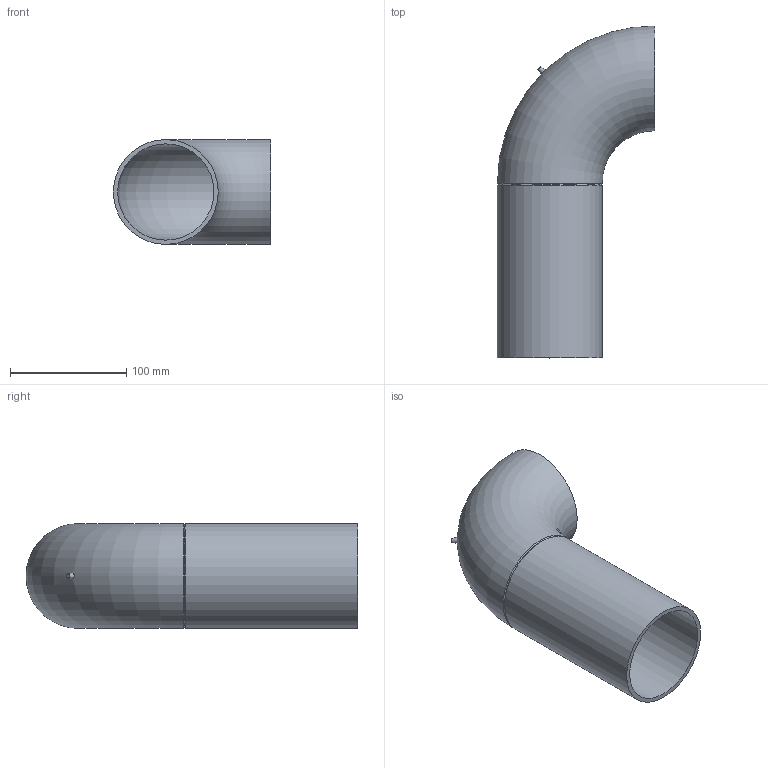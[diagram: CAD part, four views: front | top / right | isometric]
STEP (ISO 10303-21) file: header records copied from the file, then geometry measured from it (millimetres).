
FILE_DESCRIPTION(/* description */ (''),/* implementation_level */ '2;1');
FILE_NAME(/* name */ 'Z:\Geberit\Export\NewStep\366055.stp',/* time_stamp */ '2014-04-02T07:53:29+02:00',/* author */ ('bruh'),/* organization */ (''),/* preprocessor_version */ 'ST-DEVELOPER v15.2',/* originating_system */ 'Autodesk Inventor 2014',/* authorisation */ '');
FILE_SCHEMA (('AUTOMOTIVE_DESIGN { 1 0 10303 214 3 1 1 }'));
Length unit declared in the file: millimetre
Products named in the file (1): 366055
Bounding box: 135 x 285 x 90 mm (x, y, z)
Volume: 290620.7 mm3; surface area: 160287.4 mm2
Topology: 1 solids, 1 shells, 10 faces, 20 edges, 12 vertices
Faces by surface type: cone 3, plane 3, torus 2, cylinder 2
Full cylindrical faces by diameter (mm): 82.64 x1, 90 x1
Entity records: 281 total; most frequent: CARTESIAN_POINT 76, DIRECTION 40, EDGE_LOOP 20, ORIENTED_EDGE 20, AXIS2_PLACEMENT_3D 20, FACE_BOUND 12, STYLED_ITEM 11, VERTEX_POINT 10
